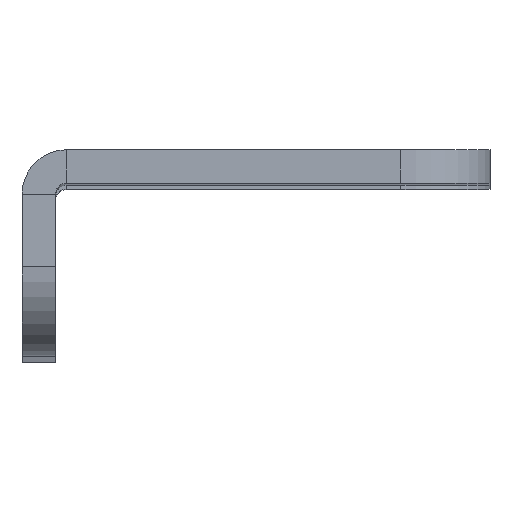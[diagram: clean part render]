
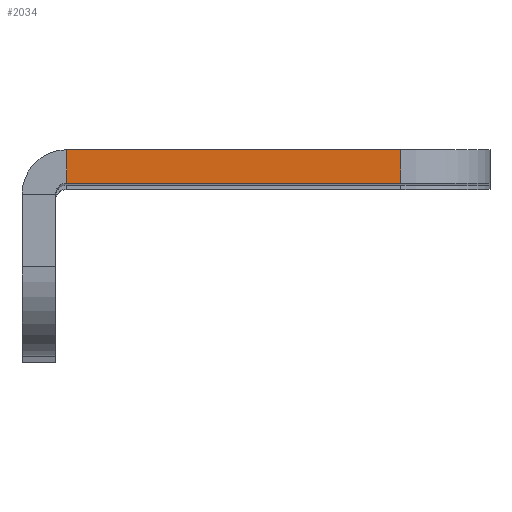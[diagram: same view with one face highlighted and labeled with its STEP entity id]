
A CAD part, top view. The second image highlights one B-rep face of the part: STEP entity #2034.
In plain terms, the highlighted planar face has unit normal (0, 0, 1).
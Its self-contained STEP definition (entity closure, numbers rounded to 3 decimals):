
#141=DIRECTION('',(0.,-1.,0.));
#142=VECTOR('',#141,3.);
#143=CARTESIAN_POINT('',(4.,0.,20.));
#144=LINE('',#143,#142);
#727=DIRECTION('',(0.,1.,0.));
#728=VECTOR('',#727,3.);
#729=CARTESIAN_POINT('',(34.,-3.,20.));
#730=LINE('',#729,#728);
#731=DIRECTION('',(-1.,0.,0.));
#732=VECTOR('',#731,30.);
#733=CARTESIAN_POINT('',(34.,-3.,20.));
#734=LINE('',#733,#732);
#735=DIRECTION('',(-1.,0.,0.));
#736=VECTOR('',#735,30.);
#737=CARTESIAN_POINT('',(34.,0.,20.));
#738=LINE('',#737,#736);
#823=CARTESIAN_POINT('',(4.,0.,20.));
#825=VERTEX_POINT('',#823);
#827=CARTESIAN_POINT('',(4.,-3.,20.));
#829=VERTEX_POINT('',#827);
#833=CARTESIAN_POINT('',(34.,0.,20.));
#835=VERTEX_POINT('',#833);
#839=CARTESIAN_POINT('',(34.,-3.,20.));
#840=VERTEX_POINT('',#839);
#2023=CARTESIAN_POINT('',(21.75,-1.5,20.));
#2024=DIRECTION('',(0.,0.,-1.));
#2025=DIRECTION('',(-1.,0.,0.));
#2026=AXIS2_PLACEMENT_3D('',#2023,#2024,#2025);
#2027=PLANE('',#2026);
#2028=ORIENTED_EDGE('',*,*,#1626,.F.);
#2029=ORIENTED_EDGE('',*,*,#1404,.T.);
#2030=ORIENTED_EDGE('',*,*,#1143,.F.);
#2031=ORIENTED_EDGE('',*,*,#1256,.F.);
#2032=EDGE_LOOP('',(#2028,#2029,#2030,#2031));
#2033=FACE_OUTER_BOUND('',#2032,.F.);
#2034=ADVANCED_FACE('',(#2033),#2027,.F.);
#1143=EDGE_CURVE('',#825,#829,#144,.T.);
#1256=EDGE_CURVE('',#835,#825,#738,.T.);
#1404=EDGE_CURVE('',#840,#829,#734,.T.);
#1626=EDGE_CURVE('',#840,#835,#730,.T.);
